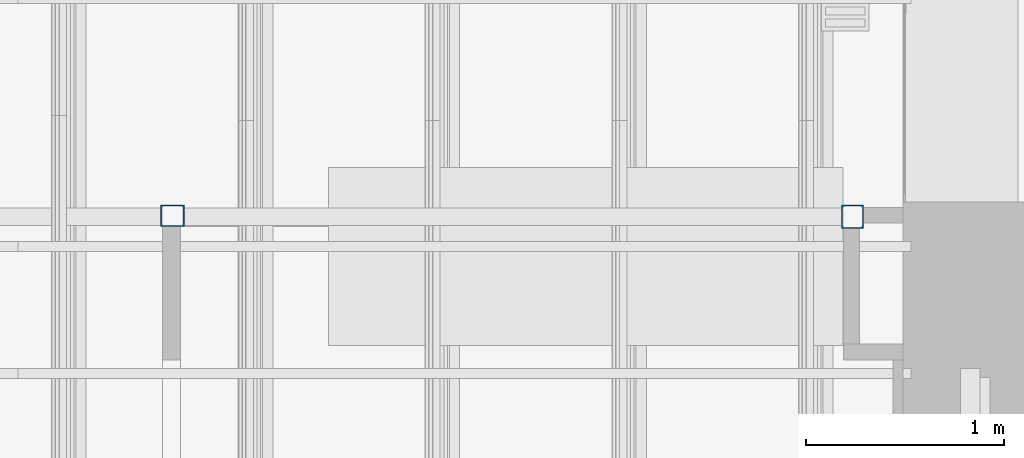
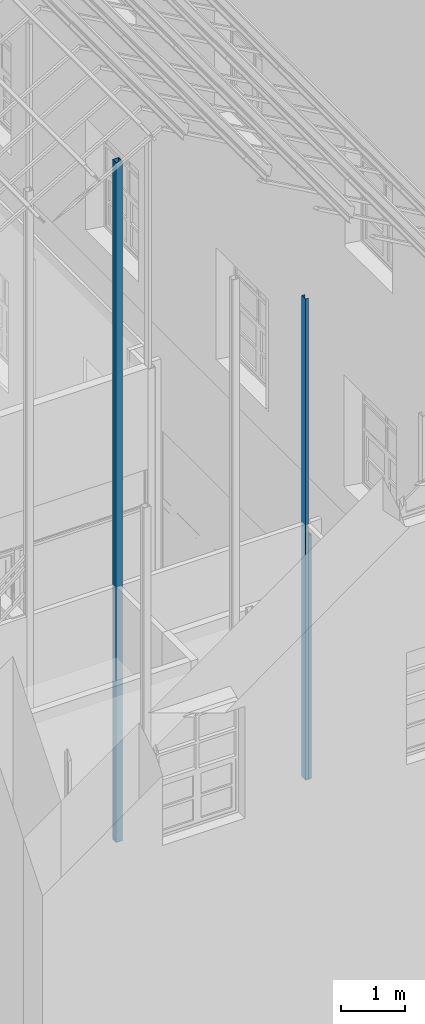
# One storey, part 11 of 75: 4 columns.
"""IFC2X3 building model written with IfcOpenShell, lengths in metres."""

from ifc_helpers import new_model, entity, si_unit, converted_unit, derived_unit, direction, frame, frame_2d, origin, place, context, subcontext, project, spatial, polyline, circle_curve, parameter, trimmed, segment, composite_curve, outline, extrude, source, transform, mapped, material, type_object, type_shapes, element, save


model = new_model("IFC2X3")

# Units and contexts
model_context = context("Model", 3, precision=1e-05, world=origin(), true_north=direction((6.12303176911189e-17, 1.0)))
body_context = subcontext(model_context, "Body", "Model", "MODEL_VIEW")
ifc_project = project(units=[si_unit("LENGTHUNIT", "METRE"), si_unit("AREAUNIT", "SQUARE_METRE"), si_unit("VOLUMEUNIT", "CUBIC_METRE"), converted_unit("PLANEANGLEUNIT", "DEGREE", entity("IfcRatioMeasure", 0.0174532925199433), si_unit("PLANEANGLEUNIT", "RADIAN"), dimensions=[0, 0, 0, 0, 0, 0, 0]), si_unit("MASSUNIT", "GRAM", prefix="KILO"), derived_unit("MASSDENSITYUNIT", [(si_unit("MASSUNIT", "GRAM", prefix="KILO"), 1), (si_unit("LENGTHUNIT", "METRE"), -3)]), derived_unit("MOMENTOFINERTIAUNIT", [(si_unit("LENGTHUNIT", "METRE"), 4)]), si_unit("TIMEUNIT", "SECOND"), si_unit("FREQUENCYUNIT", "HERTZ"), si_unit("THERMODYNAMICTEMPERATUREUNIT", "DEGREE_CELSIUS"), derived_unit("THERMALTRANSMITTANCEUNIT", [(si_unit("MASSUNIT", "GRAM", prefix="KILO"), 1), (si_unit("THERMODYNAMICTEMPERATUREUNIT", "KELVIN"), -1), (si_unit("TIMEUNIT", "SECOND"), -3)]), derived_unit("VOLUMETRICFLOWRATEUNIT", [(si_unit("LENGTHUNIT", "METRE"), 3), (si_unit("TIMEUNIT", "SECOND"), -1)]), si_unit("ELECTRICCURRENTUNIT", "AMPERE"), si_unit("ELECTRICVOLTAGEUNIT", "VOLT"), si_unit("POWERUNIT", "WATT"), si_unit("FORCEUNIT", "NEWTON", prefix="KILO"), si_unit("ILLUMINANCEUNIT", "LUX"), si_unit("LUMINOUSFLUXUNIT", "LUMEN"), si_unit("LUMINOUSINTENSITYUNIT", "CANDELA"), derived_unit("USERDEFINED", [(si_unit("MASSUNIT", "GRAM", prefix="KILO"), -1), (si_unit("LENGTHUNIT", "METRE"), -2), (si_unit("TIMEUNIT", "SECOND"), 3), (si_unit("LUMINOUSFLUXUNIT", "LUMEN"), 1)]), derived_unit("LINEARVELOCITYUNIT", [(si_unit("LENGTHUNIT", "METRE"), 1), (si_unit("TIMEUNIT", "SECOND"), -1)]), si_unit("PRESSUREUNIT", "PASCAL"), derived_unit("USERDEFINED", [(si_unit("LENGTHUNIT", "METRE"), -2), (si_unit("MASSUNIT", "GRAM", prefix="KILO"), 1), (si_unit("TIMEUNIT", "SECOND"), -2)]), derived_unit("LINEARFORCEUNIT", [(si_unit("MASSUNIT", "GRAM", prefix="KILO"), 1), (si_unit("LENGTHUNIT", "METRE"), 1), (si_unit("TIMEUNIT", "SECOND"), -2), (si_unit("LENGTHUNIT", "METRE"), -1)]), derived_unit("PLANARFORCEUNIT", [(si_unit("MASSUNIT", "GRAM", prefix="KILO"), 1), (si_unit("LENGTHUNIT", "METRE"), 1), (si_unit("TIMEUNIT", "SECOND"), -2), (si_unit("LENGTHUNIT", "METRE"), -2)])], contexts=[model_context])

# Site, building, storey
site_placement = place(None, origin())
site = spatial("IfcSite", under=ifc_project, at=site_placement, Name="Superficie", CompositionType="ELEMENT")
building_placement = place(site_placement, origin())
building = spatial("IfcBuilding", under=site, at=building_placement, Name="Telegestiones", CompositionType="ELEMENT")
storey_placement = place(building_placement, origin())
storey = spatial("IfcBuildingStorey", under=building, at=storey_placement, Name="Nivel 0_NPT", CompositionType="ELEMENT", Elevation=0.0)

# Columns
ifc_material = material(Name="Metal - Acero - 345 MPa")
column_type_1 = type_object("IfcColumnType", Name="UPE - Canales de ala paralela - Pilar:UPE 120", PredefinedType="COLUMN", material=ifc_material)
shared_shape_1 = source(origin(), body_context, "Body", "SweptSolid", [
    extrude(outline(composite_curve([segment(polyline([(-0.0599999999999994, -0.0264), (0.0600000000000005, -0.0264)]), True, "CONTINUOUS"), segment(polyline([(0.0600000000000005, -0.0264), (0.0600000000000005, 0.0286)]), True, "CONTINUOUS"), segment(polyline([(0.0600000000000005, 0.0286), (0.0539999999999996, 0.0286)]), True, "CONTINUOUS"), segment(polyline([(0.0539999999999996, 0.0286), (0.0539999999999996, -0.00939999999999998)]), True, "CONTINUOUS"), segment(trimmed(circle_curve(frame_2d((0.0419999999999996, -0.0094), x_axis=(1.0, 0.0)), 0.012), [parameter(270.0)], [parameter(0.0)], True, "PARAMETER"), False, "CONTINUOUS"), segment(polyline([(0.0419999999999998, -0.0214), (-0.0420000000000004, -0.0214)]), True, "CONTINUOUS"), segment(trimmed(circle_curve(frame_2d((-0.0420000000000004, -0.00940000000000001), x_axis=(0.0, -1.0)), 0.012), [parameter(270.0)], [parameter(0.0)], True, "PARAMETER"), False, "CONTINUOUS"), segment(polyline([(-0.0540000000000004, -0.0094), (-0.0540000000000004, 0.0286)]), True, "CONTINUOUS"), segment(polyline([(-0.0540000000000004, 0.0286), (-0.0599999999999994, 0.0286)]), True, "CONTINUOUS"), segment(polyline([(-0.0599999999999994, 0.0286), (-0.0599999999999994, -0.0264)]), True, "CONTINUOUS")], self_intersect=False)), frame((0.00660000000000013, 0.0, 0.0), z_axis=(0.0, 0.0, 1.0), x_axis=(0.0, -1.0, 0.0)), (0.0, 0.0, 1.0), 13.07),
])
type_shapes(column_type_1, [shared_shape_1])
column_1_placement = place(storey_placement, frame((11.2738126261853, 1.4544072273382, 0.0), z_axis=(0.0, 0.0, 1.0), x_axis=(0.0, 1.0, 0.0)))
element("IfcColumn", 1, at=column_1_placement, inside=storey, type_object=column_type_1, Name="UPE - Canales de ala paralela - Pilar:UPE 120", ObjectType="UPE - Canales de ala paralela - Pilar:UPE 120", context=body_context, shape_type="MappedRepresentation", body=[
    mapped(shared_shape_1, transform((0.0, 0.0, 0.0), scale=1.0)),
])
column_type_2 = type_object("IfcColumnType", Name="UPE - Canales de ala paralela - Pilar:UPE 120", PredefinedType="COLUMN", material=ifc_material)
shared_shape_2 = source(origin(), body_context, "Body", "SweptSolid", [
    extrude(outline(composite_curve([segment(polyline([(-0.0599999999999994, -0.0264), (0.0600000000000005, -0.0264)]), True, "CONTINUOUS"), segment(polyline([(0.0600000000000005, -0.0264), (0.0600000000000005, 0.0286)]), True, "CONTINUOUS"), segment(polyline([(0.0600000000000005, 0.0286), (0.0539999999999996, 0.0286)]), True, "CONTINUOUS"), segment(polyline([(0.0539999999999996, 0.0286), (0.0539999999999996, -0.00939999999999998)]), True, "CONTINUOUS"), segment(trimmed(circle_curve(frame_2d((0.0419999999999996, -0.0094), x_axis=(1.0, 0.0)), 0.012), [parameter(270.0)], [parameter(0.0)], True, "PARAMETER"), False, "CONTINUOUS"), segment(polyline([(0.0419999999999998, -0.0214), (-0.0420000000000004, -0.0214)]), True, "CONTINUOUS"), segment(trimmed(circle_curve(frame_2d((-0.0420000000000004, -0.00940000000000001), x_axis=(0.0, -1.0)), 0.012), [parameter(270.0)], [parameter(0.0)], True, "PARAMETER"), False, "CONTINUOUS"), segment(polyline([(-0.0540000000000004, -0.0094), (-0.0540000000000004, 0.0286)]), True, "CONTINUOUS"), segment(polyline([(-0.0540000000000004, 0.0286), (-0.0599999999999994, 0.0286)]), True, "CONTINUOUS"), segment(polyline([(-0.0599999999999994, 0.0286), (-0.0599999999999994, -0.0264)]), True, "CONTINUOUS")], self_intersect=False)), frame((0.00660000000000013, 0.0, 0.0), z_axis=(0.0, 0.0, 1.0), x_axis=(0.0, -1.0, 0.0)), (0.0, 0.0, 1.0), 9.25),
])
type_shapes(column_type_2, [shared_shape_2])
column_2_placement = place(storey_placement, frame((14.6746707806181, 1.48459406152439, 0.0)))
element("IfcColumn", 2, at=column_2_placement, inside=storey, type_object=column_type_2, Name="UPE - Canales de ala paralela - Pilar:UPE 120", ObjectType="UPE - Canales de ala paralela - Pilar:UPE 120", context=body_context, shape_type="MappedRepresentation", body=[
    mapped(shared_shape_2, transform((0.0, 0.0, 0.0), scale=1.0)),
])
column_type_3 = type_object("IfcColumnType", Name="UPE - Canales de ala paralela - Pilar:UPE 120", PredefinedType="COLUMN", material=ifc_material)
shared_shape_3 = source(origin(), body_context, "Body", "SweptSolid", [
    extrude(outline(composite_curve([segment(polyline([(-0.0600000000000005, -0.0264), (0.0599999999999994, -0.0264)]), True, "CONTINUOUS"), segment(polyline([(0.0599999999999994, -0.0264), (0.0599999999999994, 0.0286)]), True, "CONTINUOUS"), segment(polyline([(0.0599999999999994, 0.0286), (0.0540000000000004, 0.0286)]), True, "CONTINUOUS"), segment(polyline([(0.0540000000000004, 0.0286), (0.0540000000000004, -0.00939999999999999)]), True, "CONTINUOUS"), segment(trimmed(circle_curve(frame_2d((0.0420000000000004, -0.00939999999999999), x_axis=(1.0, 0.0)), 0.012), [parameter(270.0)], [parameter(0.0)], True, "PARAMETER"), False, "CONTINUOUS"), segment(polyline([(0.0420000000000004, -0.0214), (-0.0419999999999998, -0.0214)]), True, "CONTINUOUS"), segment(trimmed(circle_curve(frame_2d((-0.0419999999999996, -0.00939999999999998), x_axis=(0.0, -1.0)), 0.012), [parameter(270.0)], [parameter(0.0)], True, "PARAMETER"), False, "CONTINUOUS"), segment(polyline([(-0.0539999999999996, -0.00939999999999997), (-0.0539999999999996, 0.0286)]), True, "CONTINUOUS"), segment(polyline([(-0.0539999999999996, 0.0286), (-0.0600000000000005, 0.0286)]), True, "CONTINUOUS"), segment(polyline([(-0.0600000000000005, 0.0286), (-0.0600000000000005, -0.0264)]), True, "CONTINUOUS")], self_intersect=False)), frame((0.00660000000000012, 0.0, 0.0), z_axis=(0.0, 0.0, 1.0), x_axis=(0.0, -1.0, 0.0)), (0.0, 0.0, 1.0), 4.69),
])
type_shapes(column_type_3, [shared_shape_3])
column_3_placement = place(storey_placement, frame((14.7450707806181, 1.48459406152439, 0.0), z_axis=(0.0, 0.0, 1.0), x_axis=(-1.0, 0.0, 0.0)))
element("IfcColumn", 3, at=column_3_placement, inside=storey, type_object=column_type_3, Name="UPE - Canales de ala paralela - Pilar:UPE 120", ObjectType="UPE - Canales de ala paralela - Pilar:UPE 120", context=body_context, shape_type="MappedRepresentation", body=[
    mapped(shared_shape_3, transform((0.0, 0.0, 0.0), scale=1.0)),
])
column_type_4 = type_object("IfcColumnType", Name="UPE - Canales de ala paralela - Pilar:UPE 120", PredefinedType="COLUMN", material=ifc_material)
shared_shape_4 = source(origin(), body_context, "Body", "SweptSolid", [
    extrude(outline(composite_curve([segment(polyline([(-0.0600000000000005, -0.0264), (0.0599999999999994, -0.0264)]), True, "CONTINUOUS"), segment(polyline([(0.0599999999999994, -0.0264), (0.0599999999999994, 0.0286)]), True, "CONTINUOUS"), segment(polyline([(0.0599999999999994, 0.0286), (0.0540000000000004, 0.0286)]), True, "CONTINUOUS"), segment(polyline([(0.0540000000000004, 0.0286), (0.0540000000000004, -0.00939999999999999)]), True, "CONTINUOUS"), segment(trimmed(circle_curve(frame_2d((0.0420000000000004, -0.00939999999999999), x_axis=(1.0, 0.0)), 0.012), [parameter(270.0)], [parameter(0.0)], True, "PARAMETER"), False, "CONTINUOUS"), segment(polyline([(0.0420000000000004, -0.0214), (-0.0419999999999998, -0.0214)]), True, "CONTINUOUS"), segment(trimmed(circle_curve(frame_2d((-0.0419999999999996, -0.00939999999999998), x_axis=(0.0, -1.0)), 0.012), [parameter(270.0)], [parameter(0.0)], True, "PARAMETER"), False, "CONTINUOUS"), segment(polyline([(-0.0539999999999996, -0.00939999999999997), (-0.0539999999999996, 0.0286)]), True, "CONTINUOUS"), segment(polyline([(-0.0539999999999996, 0.0286), (-0.0600000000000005, 0.0286)]), True, "CONTINUOUS"), segment(polyline([(-0.0600000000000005, 0.0286), (-0.0600000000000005, -0.0264)]), True, "CONTINUOUS")], self_intersect=False)), frame((0.00660000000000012, 0.0, 0.0), z_axis=(0.0, 0.0, 1.0), x_axis=(0.0, -1.0, 0.0)), (0.0, 0.0, 1.0), 13.07),
])
type_shapes(column_type_4, [shared_shape_4])
column_4_placement = place(storey_placement, frame((11.2738126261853, 1.5248072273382, 0.0), z_axis=(0.0, 0.0, 1.0), x_axis=(0.0, -1.0, 0.0)))
element("IfcColumn", 4, at=column_4_placement, inside=storey, type_object=column_type_4, Name="UPE - Canales de ala paralela - Pilar:UPE 120", ObjectType="UPE - Canales de ala paralela - Pilar:UPE 120", context=body_context, shape_type="MappedRepresentation", body=[
    mapped(shared_shape_4, transform((0.0, 0.0, 0.0), scale=1.0)),
])

save(model, "model.ifc")
